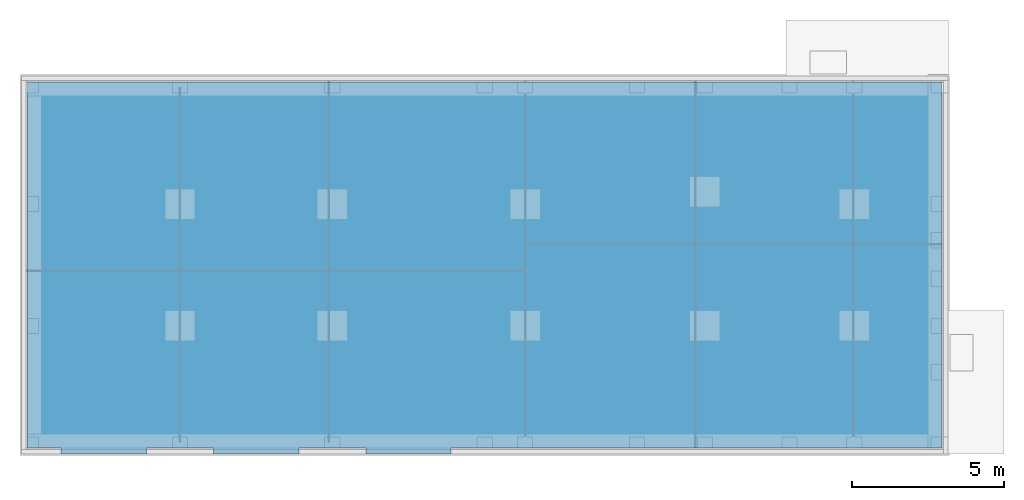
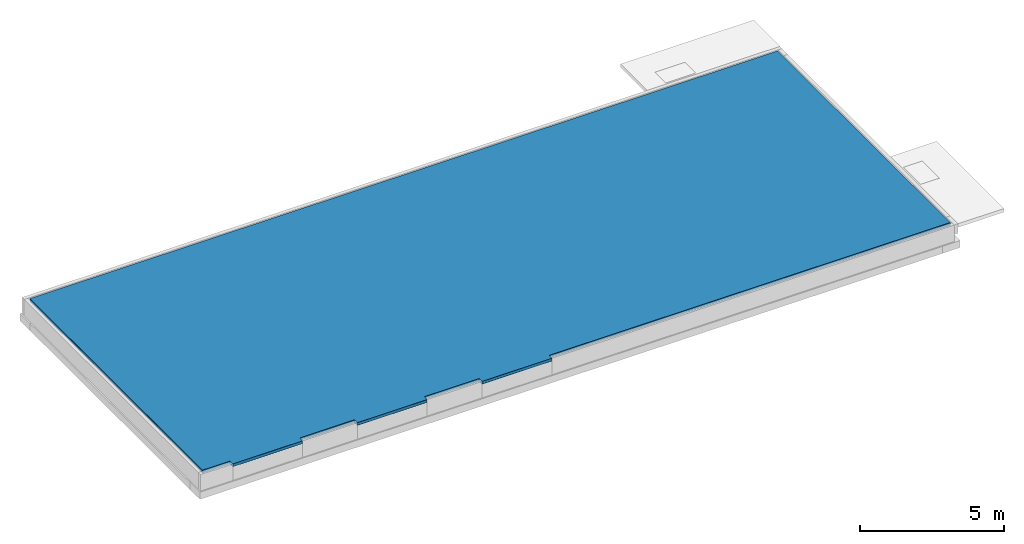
# One storey, part 3 of 3: 3 building element parts, 2 elements without a shape of their own.
"""IFC2X3 building model written with IfcOpenShell, lengths in millimetres."""

from ifc_helpers import new_model, entity, si_unit, converted_unit, frame, origin, origin_with_axes, place, context, subcontext, project, spatial, faceted_brep, material, element, aggregate, save


model = new_model("IFC2X3")

# Units and contexts
model_context = context("Model", 3, precision=1e-05, world=origin())
plan_context = context("Plan", 3, precision=1e-05, world=origin())
body_context = subcontext(model_context, "Body", "Model", "MODEL_VIEW")
ifc_project = project(units=[si_unit("LENGTHUNIT", "METRE", prefix="MILLI"), converted_unit("PLANEANGLEUNIT", "DEGREE", entity("IfcPlaneAngleMeasure", 0.0174532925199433), si_unit("PLANEANGLEUNIT", "RADIAN"), dimensions=[0, 0, 0, 0, 0, 0, 0]), si_unit("AREAUNIT", "SQUARE_METRE"), si_unit("VOLUMEUNIT", "CUBIC_METRE")], contexts=[model_context, plan_context])

# Building, storey
building_placement = place(None, origin())
building = spatial("IfcBuilding", under=ifc_project, at=building_placement, Name="HEKF Administrasjonbygg", CompositionType="ELEMENT")
storey_placement = place(building_placement, frame((0.0, 0.0, 6300.0), z_axis=(0.0, 0.0, 1.0), x_axis=(1.0, 0.0, 0.0)))
storey = spatial("IfcBuildingStorey", under=building, at=storey_placement, Name="Konstruksjoner i grunnen", CompositionType="ELEMENT", Elevation=6300.0)

# Roof, slab, building element parts
roof_placement = place(storey_placement, frame((0.0, 0.0, -6300.0), z_axis=(0.0, 0.0, 1.0), x_axis=(1.0, 0.0, 0.0)))
roof = element("IfcRoof", 1, at=roof_placement, inside=storey, ShapeType="NOTDEFINED")
slab_placement = place(roof_placement, origin_with_axes())
slab = element("IfcSlab", 2, at=slab_placement, PredefinedType="ROOF")
aggregate(roof, [slab])
ifc_material_1 = material(Name="Golvbelegg")
building_element_part_1_placement = place(slab_placement, origin_with_axes())
building_element_part_1 = element("IfcBuildingElementPart", 3, at=building_element_part_1_placement, material=ifc_material_1, context=body_context, shape_type="Brep", body=[
    faceted_brep([(30000.0, 4.547473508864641e-12, 6497.0), (1.091393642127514e-11, 4.547473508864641e-12, 6497.0), (1.091393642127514e-11, -12000.0, 6497.0), (1100.0, -12000.0, 6497.0), (1100.0, -12200.0, 6497.0), (3900.0, -12200.0, 6497.0), (3900.0, -12000.0, 6497.0), (6099.999999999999, -12000.0, 6497.0), (6099.999999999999, -12200.0, 6497.0), (8900.0, -12200.0, 6497.0), (8900.0, -12000.0, 6497.0), (11100.0, -12000.0, 6497.0), (11100.0, -12200.0, 6497.0), (13900.0, -12200.0, 6497.0), (13900.0, -12000.0, 6497.0), (30000.0, -12000.0, 6497.0), (30000.0, 4.405364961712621e-12, 6500.0), (30000.0, -12000.0, 6500.0), (13900.0, -12000.0, 6500.0), (13900.0, -12200.0, 6500.0), (11100.0, -12200.0, 6500.0), (11100.0, -12000.0, 6500.0), (8900.0, -12000.0, 6500.0), (8900.0, -12200.0, 6500.0), (6099.999999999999, -12200.0, 6500.0), (6099.999999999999, -12000.0, 6500.0), (3900.0, -12000.0, 6500.0), (3900.0, -12200.0, 6500.0), (1100.0, -12200.0, 6500.0), (1100.0, -12000.0, 6500.0), (1.091393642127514e-11, -12000.0, 6500.0), (1.091393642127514e-11, 4.405364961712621e-12, 6500.0), (1.091393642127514e-11, 4.405364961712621e-12, 6500.0), (1.091393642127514e-11, -12000.0, 6500.0), (1.091393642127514e-11, -12000.0, 6497.0), (1.091393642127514e-11, 4.547473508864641e-12, 6497.0), (1.091393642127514e-11, -12000.0, 6500.0), (1100.0, -12000.0, 6500.0), (1100.0, -12000.0, 6497.0), (1.091393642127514e-11, -12000.0, 6497.0), (1100.0, -12000.0, 6500.0), (1100.0, -12200.0, 6500.0), (1100.0, -12200.0, 6497.0), (1100.0, -12000.0, 6497.0), (1100.0, -12200.0, 6500.0), (3900.0, -12200.0, 6500.0), (3900.0, -12200.0, 6497.0), (1100.0, -12200.0, 6497.0), (3900.0, -12200.0, 6500.0), (3900.0, -12000.0, 6500.0), (3900.0, -12000.0, 6497.0), (3900.0, -12200.0, 6497.0), (3900.0, -12000.0, 6500.0), (6099.999999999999, -12000.0, 6500.0), (6099.999999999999, -12000.0, 6497.0), (3900.0, -12000.0, 6497.0), (6099.999999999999, -12000.0, 6500.0), (6099.999999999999, -12200.0, 6500.0), (6099.999999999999, -12200.0, 6497.0), (6099.999999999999, -12000.0, 6497.0), (6099.999999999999, -12200.0, 6500.0), (8900.0, -12200.0, 6500.0), (8900.0, -12200.0, 6497.0), (6099.999999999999, -12200.0, 6497.0), (8900.0, -12200.0, 6500.0), (8900.0, -12000.0, 6500.0), (8900.0, -12000.0, 6497.0), (8900.0, -12200.0, 6497.0), (8900.0, -12000.0, 6500.0), (11100.0, -12000.0, 6500.0), (11100.0, -12000.0, 6497.0), (8900.0, -12000.0, 6497.0), (11100.0, -12000.0, 6500.0), (11100.0, -12200.0, 6500.0), (11100.0, -12200.0, 6497.0), (11100.0, -12000.0, 6497.0), (11100.0, -12200.0, 6500.0), (13900.0, -12200.0, 6500.0), (13900.0, -12200.0, 6497.0), (11100.0, -12200.0, 6497.0), (13900.0, -12200.0, 6500.0), (13900.0, -12000.0, 6500.0), (13900.0, -12000.0, 6497.0), (13900.0, -12200.0, 6497.0), (13900.0, -12000.0, 6500.0), (30000.0, -12000.0, 6500.0), (30000.0, -12000.0, 6497.0), (13900.0, -12000.0, 6497.0), (30000.0, -12000.0, 6500.0), (30000.0, 4.405364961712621e-12, 6500.0), (30000.0, 4.547473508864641e-12, 6497.0), (30000.0, -12000.0, 6497.0), (30000.0, 4.405364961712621e-12, 6500.0), (1.091393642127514e-11, 4.405364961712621e-12, 6500.0), (1.091393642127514e-11, 4.547473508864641e-12, 6497.0), (30000.0, 4.547473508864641e-12, 6497.0)], [[[0, 1, 2, 3, 4, 5, 6, 7, 8, 9, 10, 11, 12, 13, 14, 15]], [[16, 17, 18, 19, 20, 21, 22, 23, 24, 25, 26, 27, 28, 29, 30, 31]], [[32, 33, 34, 35]], [[36, 37, 38, 39]], [[40, 41, 42, 43]], [[44, 45, 46, 47]], [[48, 49, 50, 51]], [[52, 53, 54, 55]], [[56, 57, 58, 59]], [[60, 61, 62, 63]], [[64, 65, 66, 67]], [[68, 69, 70, 71]], [[72, 73, 74, 75]], [[76, 77, 78, 79]], [[80, 81, 82, 83]], [[84, 85, 86, 87]], [[88, 89, 90, 91]], [[92, 93, 94, 95]]], orient=[[False], [False], [False], [False], [False], [False], [False], [False], [False], [False], [False], [False], [False], [False], [False], [False], [False], [False]]),
])
ifc_material_2 = material(Name="Betong")
building_element_part_2_placement = place(slab_placement, origin_with_axes())
building_element_part_2 = element("IfcBuildingElementPart", 4, at=building_element_part_2_placement, material=ifc_material_2, context=body_context, shape_type="Brep", body=[
    faceted_brep([(30000.0, 4.547473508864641e-12, 6380.0), (1.091393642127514e-11, 4.547473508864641e-12, 6380.0), (1.091393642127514e-11, -12000.0, 6380.0), (1100.0, -12000.0, 6380.0), (1100.0, -12200.0, 6380.0), (3900.0, -12200.0, 6380.0), (3900.0, -12000.0, 6380.0), (6099.999999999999, -12000.0, 6380.0), (6099.999999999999, -12200.0, 6380.0), (8900.0, -12200.0, 6380.0), (8900.0, -12000.0, 6380.0), (11100.0, -12000.0, 6380.0), (11100.0, -12200.0, 6380.0), (13900.0, -12200.0, 6380.0), (13900.0, -12000.0, 6380.0), (30000.0, -12000.0, 6380.0), (30000.0, 4.547473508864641e-12, 6497.0), (30000.0, -12000.0, 6497.0), (13900.0, -12000.0, 6497.0), (13900.0, -12200.0, 6497.0), (11100.0, -12200.0, 6497.0), (11100.0, -12000.0, 6497.0), (8900.0, -12000.0, 6497.0), (8900.0, -12200.0, 6497.0), (6099.999999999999, -12200.0, 6497.0), (6099.999999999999, -12000.0, 6497.0), (3900.0, -12000.0, 6497.0), (3900.0, -12200.0, 6497.0), (1100.0, -12200.0, 6497.0), (1100.0, -12000.0, 6497.0), (1.091393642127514e-11, -12000.0, 6497.0), (1.091393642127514e-11, 4.547473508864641e-12, 6497.0), (1.091393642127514e-11, 4.547473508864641e-12, 6497.0), (1.091393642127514e-11, -12000.0, 6497.0), (1.091393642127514e-11, -12000.0, 6380.0), (1.091393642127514e-11, 4.547473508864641e-12, 6380.0), (1.091393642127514e-11, -12000.0, 6497.0), (1100.0, -12000.0, 6497.0), (1100.0, -12000.0, 6380.0), (1.091393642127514e-11, -12000.0, 6380.0), (1100.0, -12000.0, 6497.0), (1100.0, -12200.0, 6497.0), (1100.0, -12200.0, 6380.0), (1100.0, -12000.0, 6380.0), (1100.0, -12200.0, 6497.0), (3900.0, -12200.0, 6497.0), (3900.0, -12200.0, 6380.0), (1100.0, -12200.0, 6380.0), (3900.0, -12200.0, 6497.0), (3900.0, -12000.0, 6497.0), (3900.0, -12000.0, 6380.0), (3900.0, -12200.0, 6380.0), (3900.0, -12000.0, 6497.0), (6099.999999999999, -12000.0, 6497.0), (6099.999999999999, -12000.0, 6380.0), (3900.0, -12000.0, 6380.0), (6099.999999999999, -12000.0, 6497.0), (6099.999999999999, -12200.0, 6497.0), (6099.999999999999, -12200.0, 6380.0), (6099.999999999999, -12000.0, 6380.0), (6099.999999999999, -12200.0, 6497.0), (8900.0, -12200.0, 6497.0), (8900.0, -12200.0, 6380.0), (6099.999999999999, -12200.0, 6380.0), (8900.0, -12200.0, 6497.0), (8900.0, -12000.0, 6497.0), (8900.0, -12000.0, 6380.0), (8900.0, -12200.0, 6380.0), (8900.0, -12000.0, 6497.0), (11100.0, -12000.0, 6497.0), (11100.0, -12000.0, 6380.0), (8900.0, -12000.0, 6380.0), (11100.0, -12000.0, 6497.0), (11100.0, -12200.0, 6497.0), (11100.0, -12200.0, 6380.0), (11100.0, -12000.0, 6380.0), (11100.0, -12200.0, 6497.0), (13900.0, -12200.0, 6497.0), (13900.0, -12200.0, 6380.0), (11100.0, -12200.0, 6380.0), (13900.0, -12200.0, 6497.0), (13900.0, -12000.0, 6497.0), (13900.0, -12000.0, 6380.0), (13900.0, -12200.0, 6380.0), (13900.0, -12000.0, 6497.0), (30000.0, -12000.0, 6497.0), (30000.0, -12000.0, 6380.0), (13900.0, -12000.0, 6380.0), (30000.0, -12000.0, 6497.0), (30000.0, 4.547473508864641e-12, 6497.0), (30000.0, 4.547473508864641e-12, 6380.0), (30000.0, -12000.0, 6380.0), (30000.0, 4.547473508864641e-12, 6497.0), (1.091393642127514e-11, 4.547473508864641e-12, 6497.0), (1.091393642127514e-11, 4.547473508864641e-12, 6380.0), (30000.0, 4.547473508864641e-12, 6380.0)], [[[0, 1, 2, 3, 4, 5, 6, 7, 8, 9, 10, 11, 12, 13, 14, 15]], [[16, 17, 18, 19, 20, 21, 22, 23, 24, 25, 26, 27, 28, 29, 30, 31]], [[32, 33, 34, 35]], [[36, 37, 38, 39]], [[40, 41, 42, 43]], [[44, 45, 46, 47]], [[48, 49, 50, 51]], [[52, 53, 54, 55]], [[56, 57, 58, 59]], [[60, 61, 62, 63]], [[64, 65, 66, 67]], [[68, 69, 70, 71]], [[72, 73, 74, 75]], [[76, 77, 78, 79]], [[80, 81, 82, 83]], [[84, 85, 86, 87]], [[88, 89, 90, 91]], [[92, 93, 94, 95]]], orient=[[False], [False], [False], [False], [False], [False], [False], [False], [False], [False], [False], [False], [False], [False], [False], [False], [False], [False]]),
])
ifc_material_3 = material(Name="Radonsperre")
building_element_part_3_placement = place(slab_placement, origin_with_axes())
building_element_part_3 = element("IfcBuildingElementPart", 5, at=building_element_part_3_placement, material=ifc_material_3, context=body_context, shape_type="Brep", body=[
    faceted_brep([(30000.0, 4.547473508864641e-12, 6375.0), (1.091393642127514e-11, 4.547473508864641e-12, 6375.0), (1.091393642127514e-11, -12000.0, 6375.0), (1100.0, -12000.0, 6375.0), (1100.0, -12200.0, 6375.0), (3900.0, -12200.0, 6375.0), (3900.0, -12000.0, 6375.0), (6099.999999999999, -12000.0, 6375.0), (6099.999999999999, -12200.0, 6375.0), (8900.0, -12200.0, 6375.0), (8900.0, -12000.0, 6375.0), (11100.0, -12000.0, 6375.0), (11100.0, -12200.0, 6375.0), (13900.0, -12200.0, 6375.0), (13900.0, -12000.0, 6375.0), (30000.0, -12000.0, 6375.0), (30000.0, 4.547473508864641e-12, 6380.0), (30000.0, -12000.0, 6380.0), (13900.0, -12000.0, 6380.0), (13900.0, -12200.0, 6380.0), (11100.0, -12200.0, 6380.0), (11100.0, -12000.0, 6380.0), (8900.0, -12000.0, 6380.0), (8900.0, -12200.0, 6380.0), (6099.999999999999, -12200.0, 6380.0), (6099.999999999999, -12000.0, 6380.0), (3900.0, -12000.0, 6380.0), (3900.0, -12200.0, 6380.0), (1100.0, -12200.0, 6380.0), (1100.0, -12000.0, 6380.0), (1.091393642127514e-11, -12000.0, 6380.0), (1.091393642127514e-11, 4.547473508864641e-12, 6380.0), (1.091393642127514e-11, 4.547473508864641e-12, 6380.0), (1.091393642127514e-11, -12000.0, 6380.0), (1.091393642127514e-11, -12000.0, 6375.0), (1.091393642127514e-11, 4.547473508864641e-12, 6375.0), (1.091393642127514e-11, -12000.0, 6380.0), (1100.0, -12000.0, 6380.0), (1100.0, -12000.0, 6375.0), (1.091393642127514e-11, -12000.0, 6375.0), (1100.0, -12000.0, 6380.0), (1100.0, -12200.0, 6380.0), (1100.0, -12200.0, 6375.0), (1100.0, -12000.0, 6375.0), (1100.0, -12200.0, 6380.0), (3900.0, -12200.0, 6380.0), (3900.0, -12200.0, 6375.0), (1100.0, -12200.0, 6375.0), (3900.0, -12200.0, 6380.0), (3900.0, -12000.0, 6380.0), (3900.0, -12000.0, 6375.0), (3900.0, -12200.0, 6375.0), (3900.0, -12000.0, 6380.0), (6099.999999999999, -12000.0, 6380.0), (6099.999999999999, -12000.0, 6375.0), (3900.0, -12000.0, 6375.0), (6099.999999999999, -12000.0, 6380.0), (6099.999999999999, -12200.0, 6380.0), (6099.999999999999, -12200.0, 6375.0), (6099.999999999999, -12000.0, 6375.0), (6099.999999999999, -12200.0, 6380.0), (8900.0, -12200.0, 6380.0), (8900.0, -12200.0, 6375.0), (6099.999999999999, -12200.0, 6375.0), (8900.0, -12200.0, 6380.0), (8900.0, -12000.0, 6380.0), (8900.0, -12000.0, 6375.0), (8900.0, -12200.0, 6375.0), (8900.0, -12000.0, 6380.0), (11100.0, -12000.0, 6380.0), (11100.0, -12000.0, 6375.0), (8900.0, -12000.0, 6375.0), (11100.0, -12000.0, 6380.0), (11100.0, -12200.0, 6380.0), (11100.0, -12200.0, 6375.0), (11100.0, -12000.0, 6375.0), (11100.0, -12200.0, 6380.0), (13900.0, -12200.0, 6380.0), (13900.0, -12200.0, 6375.0), (11100.0, -12200.0, 6375.0), (13900.0, -12200.0, 6380.0), (13900.0, -12000.0, 6380.0), (13900.0, -12000.0, 6375.0), (13900.0, -12200.0, 6375.0), (13900.0, -12000.0, 6380.0), (30000.0, -12000.0, 6380.0), (30000.0, -12000.0, 6375.0), (13900.0, -12000.0, 6375.0), (30000.0, -12000.0, 6380.0), (30000.0, 4.547473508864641e-12, 6380.0), (30000.0, 4.547473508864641e-12, 6375.0), (30000.0, -12000.0, 6375.0), (30000.0, 4.547473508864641e-12, 6380.0), (1.091393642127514e-11, 4.547473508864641e-12, 6380.0), (1.091393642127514e-11, 4.547473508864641e-12, 6375.0), (30000.0, 4.547473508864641e-12, 6375.0)], [[[0, 1, 2, 3, 4, 5, 6, 7, 8, 9, 10, 11, 12, 13, 14, 15]], [[16, 17, 18, 19, 20, 21, 22, 23, 24, 25, 26, 27, 28, 29, 30, 31]], [[32, 33, 34, 35]], [[36, 37, 38, 39]], [[40, 41, 42, 43]], [[44, 45, 46, 47]], [[48, 49, 50, 51]], [[52, 53, 54, 55]], [[56, 57, 58, 59]], [[60, 61, 62, 63]], [[64, 65, 66, 67]], [[68, 69, 70, 71]], [[72, 73, 74, 75]], [[76, 77, 78, 79]], [[80, 81, 82, 83]], [[84, 85, 86, 87]], [[88, 89, 90, 91]], [[92, 93, 94, 95]]], orient=[[False], [False], [False], [False], [False], [False], [False], [False], [False], [False], [False], [False], [False], [False], [False], [False], [False], [False]]),
])
aggregate(slab, [building_element_part_1, building_element_part_2, building_element_part_3])

save(model, "model.ifc")
